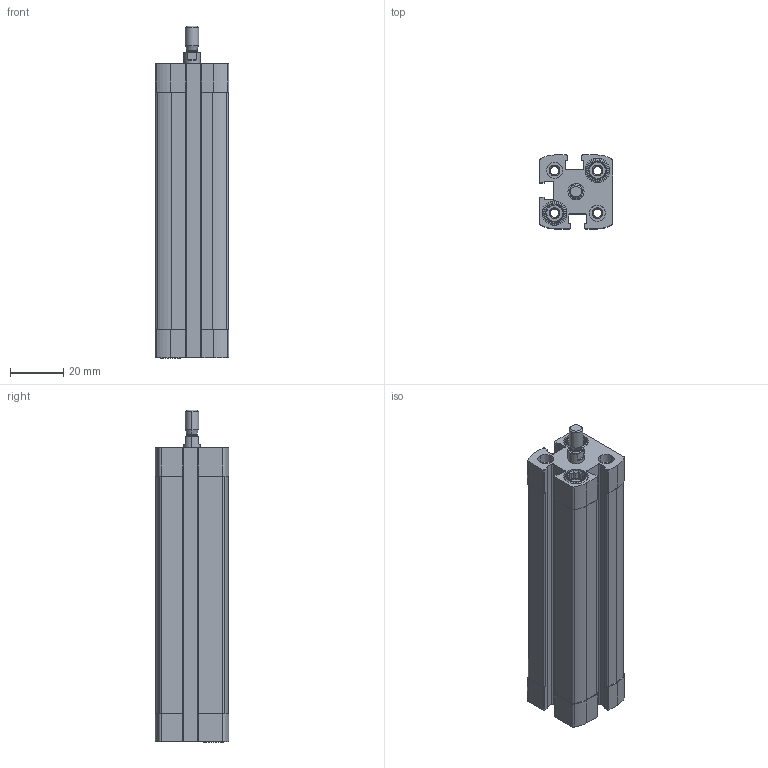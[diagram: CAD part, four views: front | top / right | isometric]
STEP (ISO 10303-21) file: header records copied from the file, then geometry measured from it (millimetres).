
FILE_DESCRIPTION (( 'STEP AP203' ), '1' );
FILE_NAME ('CCN12-75M.STEP', '2017-03-28T12:43:04', ( '' ), ( '' ), 'SwSTEP 2.0', 'SolidWorks 2016', '' );
FILE_SCHEMA (( 'CONFIG_CONTROL_DESIGN' ));
Length unit declared in the file: millimetre
Products named in the file (3): CCN-75M-(Z); CCN-75M_(KS); CCN12-75M
Assembly tree (2 placements, depth 2):
  CCN12-75M
    CCN-75M-(Z)
    CCN-75M_(KS)
Bounding box: 27.5 x 27.5 x 124.2 mm (x, y, z)
Volume: 56141.8 mm3; surface area: 29321.9 mm2
Topology: 2 solids, 2 shells, 365 faces, 938 edges, 612 vertices
Faces by surface type: plane 187, cylinder 134, cone 40, bspline 4
Entity records: 11573 total; most frequent: CARTESIAN_POINT 2280, DIRECTION 1890, ORIENTED_EDGE 1876, EDGE_CURVE 938, AXIS2_PLACEMENT_3D 686, VERTEX_POINT 612, VECTOR 518, LINE 518
